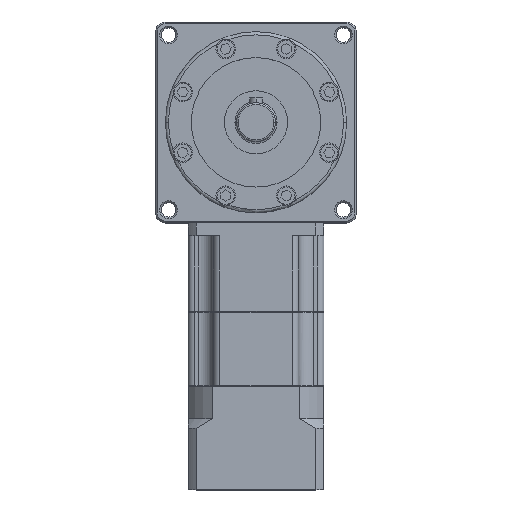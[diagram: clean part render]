
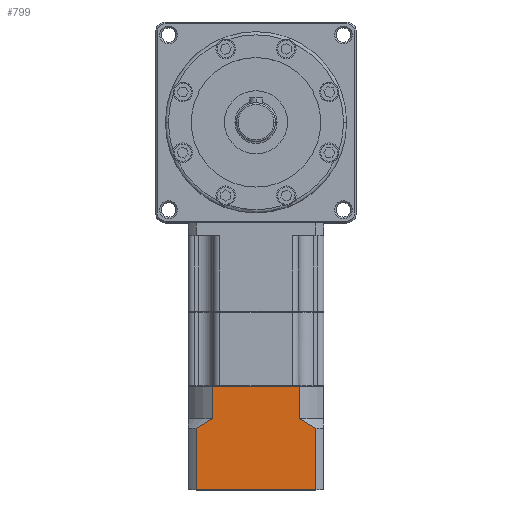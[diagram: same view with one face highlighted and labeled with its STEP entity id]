
A CAD part, top view. The second image highlights one B-rep face of the part: STEP entity #799.
In plain terms, the highlighted planar face has unit normal (0, 0, 1) as drawn and (0, -1, 0) by its records, which use the part's own axes.
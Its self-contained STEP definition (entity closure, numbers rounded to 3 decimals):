
#148 = LINE ( 'NONE', #1064, #9543 ) ;
#183 = VERTEX_POINT ( 'NONE', #2144 ) ;
#706 = DIRECTION ( 'NONE',  ( 0., 1., 0. ) ) ;
#799 = ADVANCED_FACE ( 'NONE', ( #14354 ), #12508, .F. ) ;
#1004 = EDGE_CURVE ( 'NONE', #1560, #3369, #12844, .T. ) ;
#1064 = CARTESIAN_POINT ( 'NONE',  ( 0., -21., -78.5 ) ) ;
#1506 = EDGE_CURVE ( 'NONE', #11020, #2306, #148, .T. ) ;
#1534 = CARTESIAN_POINT ( 'NONE',  ( -18.52, -21., -59.5 ) ) ;
#1560 = VERTEX_POINT ( 'NONE', #2819 ) ;
#1871 = ORIENTED_EDGE ( 'NONE', *, *, #1506, .F. ) ;
#2012 = VECTOR ( 'NONE', #14236, 1000. ) ;
#2144 = CARTESIAN_POINT ( 'NONE',  ( -13.565, -21., -46.6 ) ) ;
#2306 = VERTEX_POINT ( 'NONE', #12596 ) ;
#2309 = EDGE_CURVE ( 'NONE', #2306, #1560, #12671, .T. ) ;
#2496 = ORIENTED_EDGE ( 'NONE', *, *, #1004, .F. ) ;
#2500 = VECTOR ( 'NONE', #10625, 1000. ) ;
#2533 = CARTESIAN_POINT ( 'NONE',  ( -13.565, -21., -56.5 ) ) ;
#2540 = ORIENTED_EDGE ( 'NONE', *, *, #15002, .F. ) ;
#2545 = EDGE_CURVE ( 'NONE', #3369, #183, #7242, .T. ) ;
#2819 = CARTESIAN_POINT ( 'NONE',  ( -18.52, -21., -59.5 ) ) ;
#2980 = VECTOR ( 'NONE', #8765, 1000. ) ;
#3295 = VERTEX_POINT ( 'NONE', #12126 ) ;
#3369 = VERTEX_POINT ( 'NONE', #7868 ) ;
#3508 = DIRECTION ( 'NONE',  ( -1., 0., 0. ) ) ;
#3823 = EDGE_CURVE ( 'NONE', #12908, #183, #8844, .T. ) ;
#3923 = CARTESIAN_POINT ( 'NONE',  ( 0., -21., -56.5 ) ) ;
#4220 = CARTESIAN_POINT ( 'NONE',  ( 13.565, -21., -56.5 ) ) ;
#4398 = VERTEX_POINT ( 'NONE', #5609 ) ;
#4503 = B_SPLINE_CURVE_WITH_KNOTS ( 'NONE', 3,
 ( #7134, #4845, #9480, #7210 ),
 .UNSPECIFIED., .F., .F.,
 ( 4, 4 ),
 ( 0.034, 0.04 ),
 .UNSPECIFIED. ) ;
#4845 = CARTESIAN_POINT ( 'NONE',  ( 15.259, -21., -57.42 ) ) ;
#5363 = DIRECTION ( 'NONE',  ( 0., 0., 1. ) ) ;
#5439 = EDGE_CURVE ( 'NONE', #11020, #4398, #11903, .T. ) ;
#5609 = CARTESIAN_POINT ( 'NONE',  ( 18.52, -21., -59.5 ) ) ;
#5744 = DIRECTION ( 'NONE',  ( 0., 0., 1. ) ) ;
#5797 = AXIS2_PLACEMENT_3D ( 'NONE', #3923, #706, #5363 ) ;
#6165 = CARTESIAN_POINT ( 'NONE',  ( 18.52, -21., -78.5 ) ) ;
#6280 = CARTESIAN_POINT ( 'NONE',  ( 13.565, -21., -46.6 ) ) ;
#6795 = VECTOR ( 'NONE', #5744, 1000. ) ;
#7134 = CARTESIAN_POINT ( 'NONE',  ( 13.565, -21., -56.5 ) ) ;
#7210 = CARTESIAN_POINT ( 'NONE',  ( 18.52, -21., -59.5 ) ) ;
#7242 = LINE ( 'NONE', #8463, #2012 ) ;
#7268 = ORIENTED_EDGE ( 'NONE', *, *, #12962, .T. ) ;
#7572 = LINE ( 'NONE', #4220, #11360 ) ;
#7768 = ORIENTED_EDGE ( 'NONE', *, *, #2309, .F. ) ;
#7868 = CARTESIAN_POINT ( 'NONE',  ( -13.565, -21., -56.5 ) ) ;
#8463 = CARTESIAN_POINT ( 'NONE',  ( -13.565, -21., -56.5 ) ) ;
#8681 = EDGE_LOOP ( 'NONE', ( #2496, #7768, #1871, #9914, #2540, #7268, #12252, #13888 ) ) ;
#8765 = DIRECTION ( 'NONE',  ( -1., 0., 0. ) ) ;
#8844 = LINE ( 'NONE', #12342, #2980 ) ;
#9480 = CARTESIAN_POINT ( 'NONE',  ( 16.905, -21., -58.432 ) ) ;
#9543 = VECTOR ( 'NONE', #3508, 1000. ) ;
#9914 = ORIENTED_EDGE ( 'NONE', *, *, #5439, .T. ) ;
#10625 = DIRECTION ( 'NONE',  ( 0., 0., 1. ) ) ;
#10830 = CARTESIAN_POINT ( 'NONE',  ( -15.258, -21., -57.419 ) ) ;
#11020 = VERTEX_POINT ( 'NONE', #6165 ) ;
#11079 = DIRECTION ( 'NONE',  ( 0., 0., 1. ) ) ;
#11360 = VECTOR ( 'NONE', #11079, 1000. ) ;
#11529 = CARTESIAN_POINT ( 'NONE',  ( -18.52, -21., -78.5 ) ) ;
#11882 = CARTESIAN_POINT ( 'NONE',  ( -16.903, -21., -58.431 ) ) ;
#11903 = LINE ( 'NONE', #13974, #2500 ) ;
#12126 = CARTESIAN_POINT ( 'NONE',  ( 13.565, -21., -56.5 ) ) ;
#12252 = ORIENTED_EDGE ( 'NONE', *, *, #3823, .T. ) ;
#12342 = CARTESIAN_POINT ( 'NONE',  ( 0., -21., -46.6 ) ) ;
#12508 = PLANE ( 'NONE',  #5797 ) ;
#12596 = CARTESIAN_POINT ( 'NONE',  ( -18.52, -21., -78.5 ) ) ;
#12671 = LINE ( 'NONE', #11529, #6795 ) ;
#12844 = B_SPLINE_CURVE_WITH_KNOTS ( 'NONE', 3,
 ( #1534, #11882, #10830, #2533 ),
 .UNSPECIFIED., .F., .F.,
 ( 4, 4 ),
 ( 0., 0.006 ),
 .UNSPECIFIED. ) ;
#12908 = VERTEX_POINT ( 'NONE', #6280 ) ;
#12962 = EDGE_CURVE ( 'NONE', #3295, #12908, #7572, .T. ) ;
#13888 = ORIENTED_EDGE ( 'NONE', *, *, #2545, .F. ) ;
#13974 = CARTESIAN_POINT ( 'NONE',  ( 18.52, -21., -78.5 ) ) ;
#14236 = DIRECTION ( 'NONE',  ( 0., 0., 1. ) ) ;
#14354 = FACE_OUTER_BOUND ( 'NONE', #8681, .T. ) ;
#15002 = EDGE_CURVE ( 'NONE', #3295, #4398, #4503, .T. ) ;
